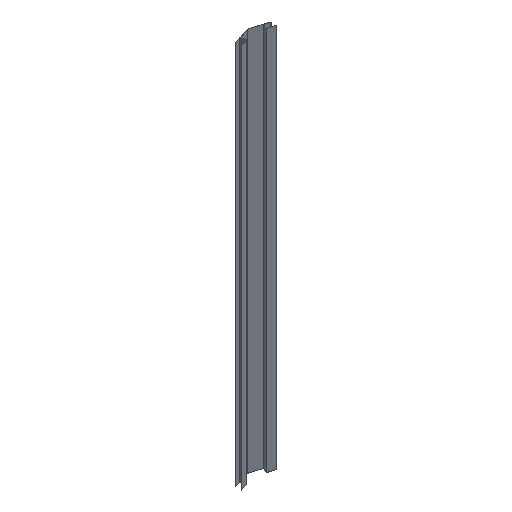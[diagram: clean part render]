
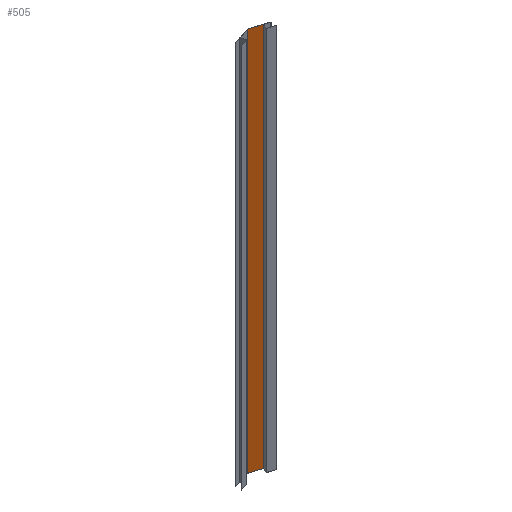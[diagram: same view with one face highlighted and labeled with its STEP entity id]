
A CAD part, isometric view. The second image highlights one B-rep face of the part: STEP entity #505.
In plain terms, the highlighted planar face has unit normal (-0.297, -0.955, 0).
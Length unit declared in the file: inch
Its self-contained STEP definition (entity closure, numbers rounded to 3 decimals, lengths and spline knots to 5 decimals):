
#49=FACE_OUTER_BOUND('',#75,.T.);
#75=EDGE_LOOP('',(#389,#390,#391,#392));
#125=LINE('',#810,#185);
#126=LINE('',#813,#186);
#127=LINE('',#815,#187);
#128=LINE('',#816,#188);
#185=VECTOR('',#663,0.3937);
#186=VECTOR('',#666,0.3937);
#187=VECTOR('',#667,0.3937);
#188=VECTOR('',#668,0.3937);
#237=VERTEX_POINT('',#806);
#238=VERTEX_POINT('',#808);
#239=VERTEX_POINT('',#812);
#240=VERTEX_POINT('',#814);
#301=EDGE_CURVE('',#237,#238,#125,.T.);
#302=EDGE_CURVE('',#239,#237,#126,.T.);
#303=EDGE_CURVE('',#240,#238,#127,.T.);
#304=EDGE_CURVE('',#239,#240,#128,.T.);
#389=ORIENTED_EDGE('',*,*,#302,.T.);
#390=ORIENTED_EDGE('',*,*,#301,.T.);
#391=ORIENTED_EDGE('',*,*,#303,.F.);
#392=ORIENTED_EDGE('',*,*,#304,.F.);
#481=PLANE('',#559);
#505=ADVANCED_FACE('',(#49),#481,.T.);
#559=AXIS2_PLACEMENT_3D('',#811,#664,#665);
#663=DIRECTION('',(0.,0.,1.));
#664=DIRECTION('center_axis',(-0.297,-0.955,0.));
#665=DIRECTION('ref_axis',(0.955,-0.297,0.));
#666=DIRECTION('',(0.955,-0.297,0.));
#667=DIRECTION('',(0.955,-0.297,0.));
#668=DIRECTION('',(0.,0.,1.));
#806=CARTESIAN_POINT('',(6.81277,0.75283,0.));
#808=CARTESIAN_POINT('',(6.81277,0.75283,120.));
#810=CARTESIAN_POINT('',(6.81277,0.75283,0.));
#811=CARTESIAN_POINT('Origin',(1.3006,2.46682,0.));
#812=CARTESIAN_POINT('',(1.3006,2.46682,0.));
#813=CARTESIAN_POINT('',(1.3006,2.46682,0.));
#814=CARTESIAN_POINT('',(1.3006,2.46682,120.));
#815=CARTESIAN_POINT('',(1.3006,2.46682,120.));
#816=CARTESIAN_POINT('',(1.3006,2.46682,0.));
